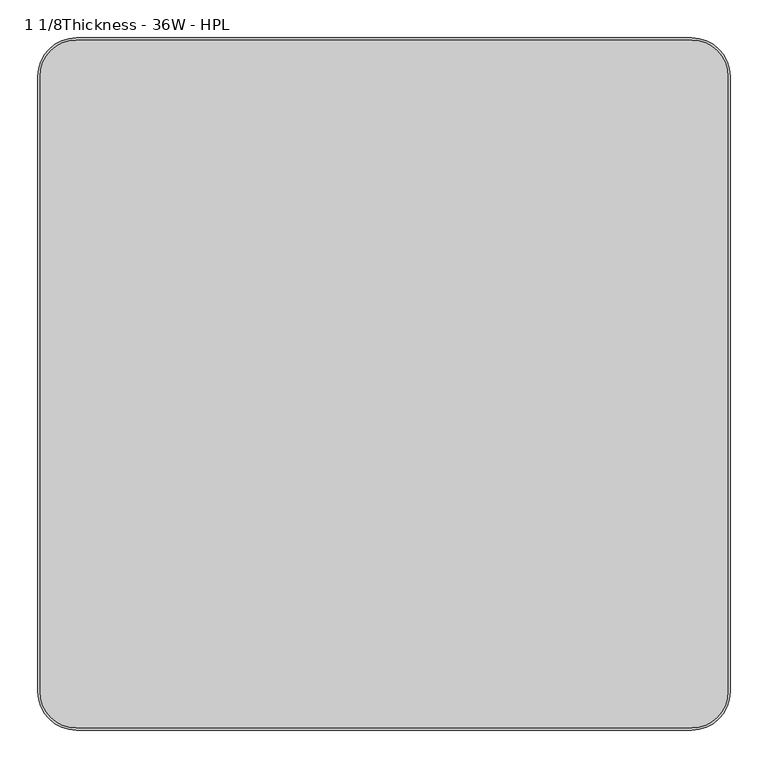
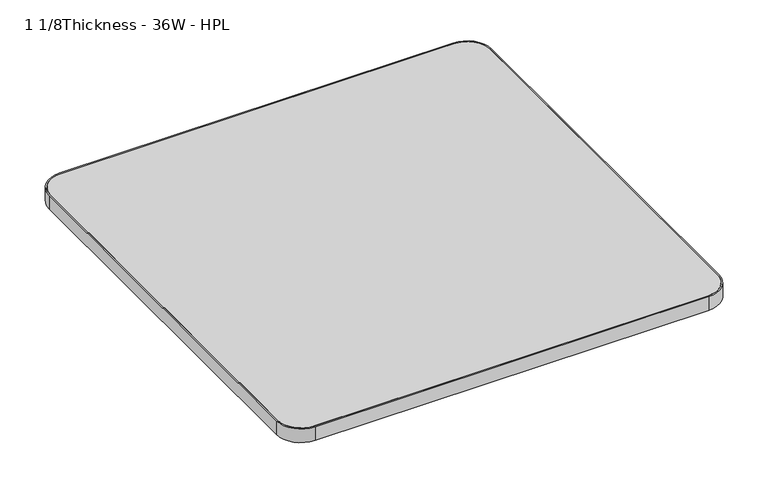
"""IFC4 building model written with IfcOpenShell, lengths in millimetres: furniture geometry, Steelcase - Groupwork - Table - Top - Square : 1 1/8Thickness - 36W - HPL."""

from ifc_helpers import new_model, si_unit, point, frame, frame_2d, origin, place, context, project, spatial, polyline, circle_curve, trimmed, segment, composite_curve, outline, extrude, source, transform, mapped, element, save


def furniture_1_1_8thickness_36w_hpl_82e7e8d1(model_context):
    return source(origin(), model_context, "Body", "SweptSolid", [
        extrude(outline(composite_curve([segment(polyline([(-434.848, 454.2), (378.048, 454.2)]), True, "CONTINUOUS"), segment(trimmed(circle_curve(frame_2d((378.048, 406.448)), 47.752), [point((378.048, 454.2))], [point((425.8, 406.448))], False, "CARTESIAN"), True, "CONTINUOUS"), segment(polyline([(425.8, 406.448), (425.8, -406.448)]), True, "CONTINUOUS"), segment(trimmed(circle_curve(frame_2d((378.048, -406.448)), 47.752), [point((425.8, -406.448))], [point((378.048, -454.2))], False, "CARTESIAN"), True, "CONTINUOUS"), segment(polyline([(378.048, -454.2), (-434.848, -454.2)]), True, "CONTINUOUS"), segment(trimmed(circle_curve(frame_2d((-434.848, -406.448)), 47.752), [point((-434.848, -454.2))], [point((-482.6, -406.448))], False, "CARTESIAN"), True, "CONTINUOUS"), segment(polyline([(-482.6, -406.448), (-482.6, 406.448)]), True, "CONTINUOUS"), segment(trimmed(circle_curve(frame_2d((-434.848, 406.448)), 47.752), [point((-482.6, 406.448))], [point((-434.848, 454.2))], False, "CARTESIAN"), True, "CONTINUOUS")], self_intersect=False)), frame((0.0, 0.0, 695.579), z_axis=(0.0, 0.0, 1.0), x_axis=(1.0, 0.0, 0.0)), (0.0, 0.0, 1.0), 29.972),
        extrude(outline(composite_curve([segment(trimmed(circle_curve(frame_2d((378.0, 406.4)), 50.8), [point((378.0, 457.2))], [point((428.8, 406.4))], False, "CARTESIAN"), True, "CONTINUOUS"), segment(polyline([(428.8, 406.4), (428.8, -406.4)]), True, "CONTINUOUS"), segment(trimmed(circle_curve(frame_2d((378.0, -406.4)), 50.8), [point((428.8, -406.4))], [point((378.0, -457.2))], False, "CARTESIAN"), True, "CONTINUOUS"), segment(polyline([(378.0, -457.2), (-434.8, -457.2)]), True, "CONTINUOUS"), segment(trimmed(circle_curve(frame_2d((-434.8, -406.4)), 50.8), [point((-434.8, -457.2))], [point((-485.6, -406.4))], False, "CARTESIAN"), True, "CONTINUOUS"), segment(polyline([(-485.6, -406.4), (-485.6, 406.4)]), True, "CONTINUOUS"), segment(trimmed(circle_curve(frame_2d((-434.8, 406.4)), 50.8), [point((-485.6, 406.4))], [point((-434.8, 457.2))], False, "CARTESIAN"), True, "CONTINUOUS"), segment(polyline([(-434.8, 457.2), (378.0, 457.2)]), True, "CONTINUOUS")], self_intersect=False), holes=[composite_curve([segment(polyline([(378.048, 454.2), (-434.848, 454.2)]), True, "CONTINUOUS"), segment(trimmed(circle_curve(frame_2d((-434.848, 406.448)), 47.752), [point((-434.848, 454.2))], [point((-482.6, 406.448))], True, "CARTESIAN"), True, "CONTINUOUS"), segment(polyline([(-482.6, 406.448), (-482.6, -406.448)]), True, "CONTINUOUS"), segment(trimmed(circle_curve(frame_2d((-434.848, -406.448)), 47.752), [point((-482.6, -406.448))], [point((-434.848, -454.2))], True, "CARTESIAN"), True, "CONTINUOUS"), segment(polyline([(-434.848, -454.2), (378.048, -454.2)]), True, "CONTINUOUS"), segment(trimmed(circle_curve(frame_2d((378.048, -406.448)), 47.752), [point((378.048, -454.2))], [point((425.8, -406.448))], True, "CARTESIAN"), True, "CONTINUOUS"), segment(polyline([(425.8, -406.448), (425.8, 406.448)]), True, "CONTINUOUS"), segment(trimmed(circle_curve(frame_2d((378.048, 406.448)), 47.752), [point((425.8, 406.448))], [point((378.048, 454.2))], True, "CARTESIAN"), True, "CONTINUOUS")], self_intersect=False)]), frame((0.0, 0.0, 695.579), z_axis=(0.0, 0.0, 1.0), x_axis=(1.0, 0.0, 0.0)), (0.0, 0.0, 1.0), 29.972),
    ])


if __name__ == "__main__":
    model = new_model("IFC4")
    model_context = context("Model", 3, world=origin())
    ifc_project = project(units=[si_unit("LENGTHUNIT", "METRE", prefix="MILLI")], contexts=[model_context])
    site = spatial("IfcSite", under=ifc_project)
    building = spatial("IfcBuilding", under=site)
    placement = place(None, origin())
    furniture_1_1_8thickness_36w_hpl_shape = furniture_1_1_8thickness_36w_hpl_82e7e8d1(model_context)
    element("IfcFurniture", 1, ObjectType="Steelcase - Groupwork - Table - Top - Square : 1 1/8Thickness - 36W - HPL", at=placement, inside=building, context=model_context, shape_type="MappedRepresentation", body=[
        mapped(furniture_1_1_8thickness_36w_hpl_shape, transform((0.0, 0.0, 0.0), x_axis=(1.0, 0.0, 0.0), y_axis=(0.0, 1.0, 0.0), z_axis=(0.0, 0.0, 1.0))),
    ])
    save(model, "model.ifc")
